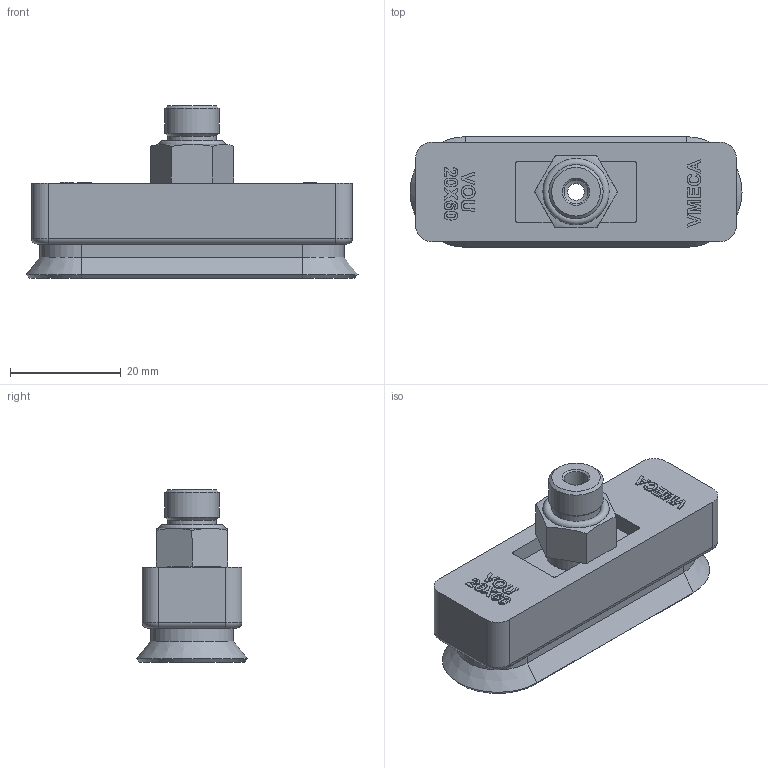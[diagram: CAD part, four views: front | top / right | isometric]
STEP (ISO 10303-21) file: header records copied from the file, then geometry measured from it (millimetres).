
FILE_DESCRIPTION( ( 'Unknown' ), '1' );
FILE_NAME( 'D:/New PAD/PAD-VOU/Part/STEP/VOU 20X60_18M.stp', 'Unknown', ( 'Unknown' ), ( 'Unknown' ), 'XStep 1.0', 'Unknown', ' ' );
FILE_SCHEMA( ( 'automotive_design' ) );
Length unit declared in the file: millimetre
Products named in the file (1): Fitting-PF18M VOU
Bounding box: 60 x 20 x 31.2 mm (x, y, z)
Volume: 17482.2 mm3; surface area: 6218.2 mm2
Topology: 1 solids, 1 shells, 173 faces, 424 edges, 274 vertices
Faces by surface type: extrusion 86, plane 49, cylinder 22, cone 10, torus 5, revolution 1
Full cylindrical faces by diameter (mm): 3 x1, 4.3 x1, 5 x1, 6.5 x1, 8.8 x1, 9.8 x1
Entity records: 7469 total; most frequent: CARTESIAN_POINT 2244, ORIENTED_EDGE 800, DIRECTION 611, EDGE_CURVE 400, VECTOR 318, VERTEX_POINT 271, LINE 232, EDGE_LOOP 221
